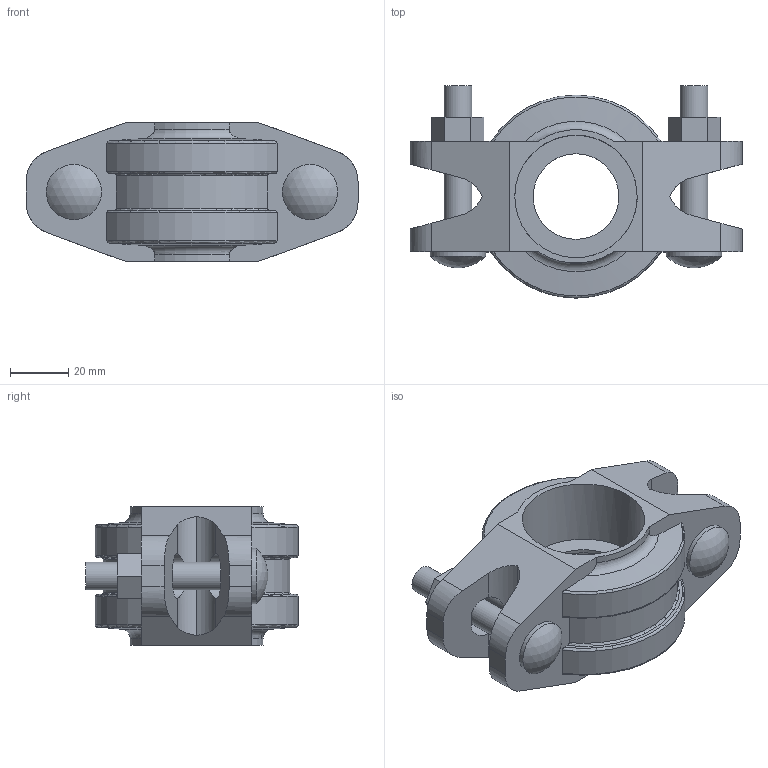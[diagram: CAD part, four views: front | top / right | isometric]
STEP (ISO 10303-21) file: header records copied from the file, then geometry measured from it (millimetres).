
FILE_DESCRIPTION(/* description */ ('VIC STYLE 005H FIRELOCK RIGID COUPLING','CAx-IF Rec.Pracs.---Representation and Presentation of Product Manufacturing Information (PMI)---4.0---2014-10-13'),/* implementation_level */ '2;1');
FILE_NAME(/* name */ 'C:\Users\Vjadhav\Desktop\CAD for Inventor\1\Coupling bolt thickness\005H\STEP\Victaulic_FP-FireLock_Coupling Rigid_Style 005H (OGS)\Victaulic_FP-FireLock_Coupling Rigid_Style 005H (OGS)_1.25 (32).stp',/* time_stamp */ '2022-03-28T11:24:24+06:00',/* author */ ('jheald'),/* organization */ ('Victaulic'),/* preprocessor_version */ 'ST-DEVELOPER v17.2',/* originating_system */ 'Autodesk Inventor 2019',/* authorisation */ '');
FILE_SCHEMA (('AP242_MANAGED_MODEL_BASED_3D_ENGINEERING_MIM_LF { 1 0 10303 442 1 1 4 }'));
Length unit declared in the file: inch
Products named in the file (1): 005H-01.25
Bounding box: 114.3 x 73.03 x 47.75 mm (x, y, z)
Volume: 136028.7 mm3; surface area: 35194.1 mm2
Topology: 1 solids, 1 shells, 113 faces, 333 edges, 226 vertices
Faces by surface type: plane 52, cylinder 39, torus 16, cone 4, sphere 2
Full cylindrical faces by diameter (mm): 9.525 x4, 19.05 x2, 29.464 x1, 42.164 x2
Entity records: 4388 total; most frequent: CARTESIAN_POINT 1082, ORIENTED_EDGE 666, DIRECTION 653, EDGE_CURVE 333, AXIS2_PLACEMENT_3D 241, VERTEX_POINT 226, LINE 171, VECTOR 171
